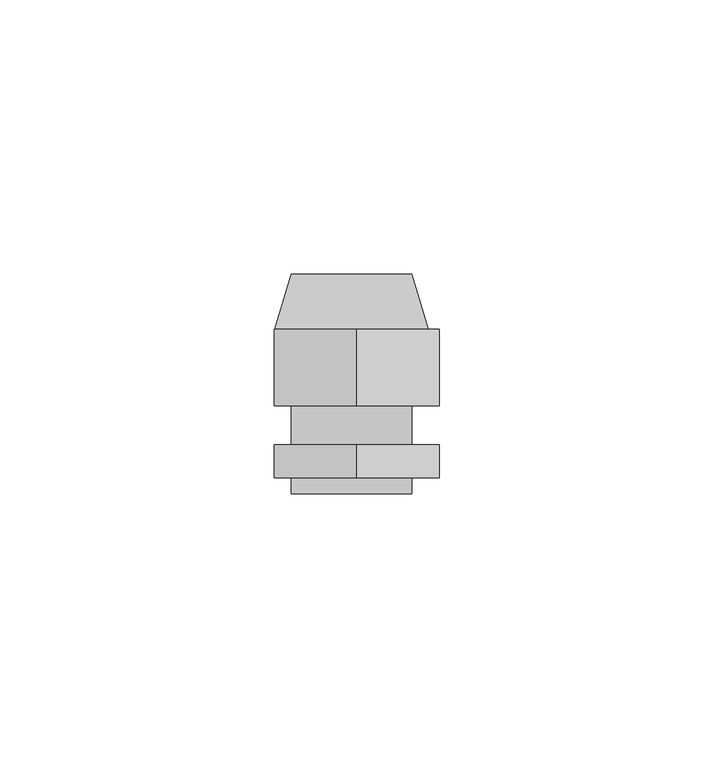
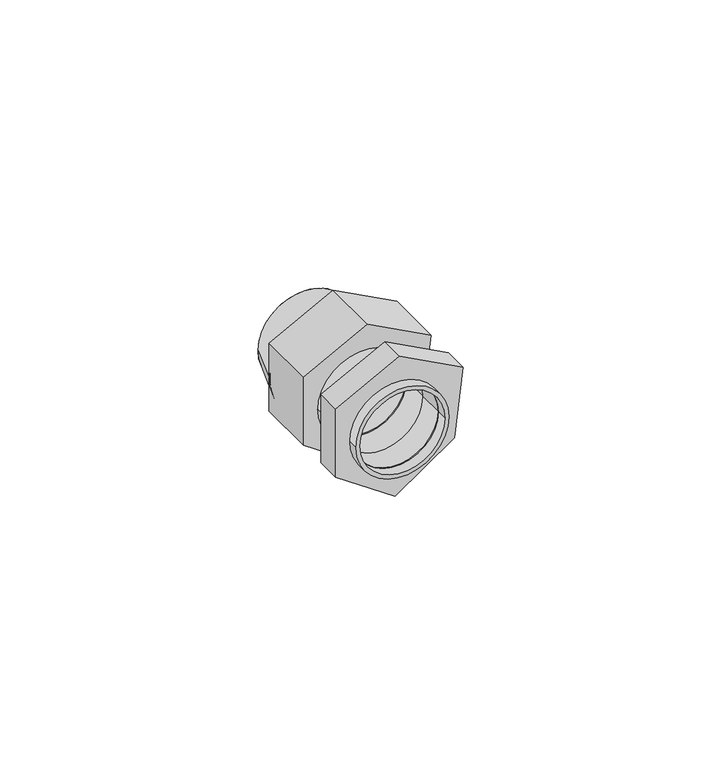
"""IFC4 building model written with IfcOpenShell, lengths in millimetres: cable carrier fitting geometry, Сальник_PGL_D_11-48_IP54 : Сальник PG 16 диаметр проводника 10-14мм IP54."""

import ifcopenshell
import ifcopenshell.guid

model = None  # the IFC model being written
_history = None  # IfcOwnerHistory: only IFC2X3 demands one
_inside = {}  # id of a spatial element -> (the spatial element, [elements in it])
_under = {}  # id of a project, library or spatial element -> (it, [spatial elements below it])
_declared = {}  # id of a project -> (the project, [libraries it declares])
_typed = {}  # id of a type object -> (the type object, [elements of that type])
_made_of = {}  # id of a material, layer set ... -> (it, [elements and type objects made of it])


def new_model(schema):
    """Start an empty IFC model of exactly this schema.

    Asked for "IFC4X3", IfcOpenShell would pick the latest addendum, in which some entities
    have other attributes; the version numbers below select the first issue.
    IFC2X3 requires an IfcOwnerHistory on every rooted entity: one is made here for all.
    """
    global model, _history
    if schema == "IFC4X3":
        model = ifcopenshell.file(schema_version=(4, 3, 0, 0))
    else:
        model = ifcopenshell.file(schema=schema)
    _inside.clear()
    _under.clear()
    _declared.clear()
    _typed.clear()
    _made_of.clear()
    _history = None
    if model.schema == "IFC2X3":
        org = make("IfcOrganization", Name="unknown")
        user = make(
            "IfcPersonAndOrganization",
            ThePerson=make("IfcPerson", FamilyName="unknown"),
            TheOrganization=org,
        )
        app = make(
            "IfcApplication",
            ApplicationDeveloper=org,
            Version="unknown",
            ApplicationFullName="unknown",
            ApplicationIdentifier="unknown",
        )
        _history = make(
            "IfcOwnerHistory",
            OwningUser=user,
            OwningApplication=app,
            ChangeAction="ADDED",
            CreationDate=0,
        )
    return model


def make(cls, **values):
    """One entity of the class cls with the attributes given. An attribute that is None is left unset."""
    return model.create_entity(
        cls, **{name: value for name, value in values.items() if value is not None}
    )


def rooted(cls, **values):
    """An entity with a GlobalId (a new one), such as an element, a storey or a relation."""
    return make(cls, GlobalId=ifcopenshell.guid.new(), OwnerHistory=_history, **values)


def si_unit(unit_type, name, prefix=None):
    """IfcSIUnit, for example si_unit("LENGTHUNIT", "METRE", prefix="MILLI")."""
    return make("IfcSIUnit", UnitType=unit_type, Prefix=prefix, Name=name)


def assignment(units):
    """IfcUnitAssignment: the units of a project."""
    return None if units is None else make("IfcUnitAssignment", Units=units)


def point(xyz):
    """IfcCartesianPoint."""
    return None if xyz is None else make("IfcCartesianPoint", Coordinates=xyz)


def direction(xyz):
    """IfcDirection."""
    return None if xyz is None else make("IfcDirection", DirectionRatios=xyz)


def frame(location, z_axis=None, x_axis=None):
    """IfcAxis2Placement3D, a coordinate frame: its origin and axes. An axis left out is left unset."""
    return make(
        "IfcAxis2Placement3D",
        Location=point(location),
        Axis=direction(z_axis),
        RefDirection=direction(x_axis),
    )


def frame_2d(location, x_axis=None):
    """IfcAxis2Placement2D, a coordinate frame in the plane: its origin and x axis."""
    return make(
        "IfcAxis2Placement2D", Location=point(location), RefDirection=direction(x_axis)
    )


def origin():
    """The frame at (0, 0, 0) with its axes left unset."""
    return frame((0.0, 0.0, 0.0))


def place(relative_to, where):
    """IfcLocalPlacement: puts the frame where relative to a parent placement (None: the world)."""
    return make(
        "IfcLocalPlacement", PlacementRelTo=relative_to, RelativePlacement=where
    )


def context(
    kind, dimensions, precision=None, world=None, true_north=None, identifier=None
):
    """IfcGeometricRepresentationContext, for example the 3D "Model" context."""
    return make(
        "IfcGeometricRepresentationContext",
        ContextIdentifier=identifier,
        ContextType=kind,
        CoordinateSpaceDimension=dimensions,
        Precision=precision,
        WorldCoordinateSystem=world,
        TrueNorth=true_north,
    )


def project(units=None, contexts=None):
    """IfcProject with its units and contexts."""
    return rooted(
        "IfcProject",
        Name="project",
        RepresentationContexts=contexts,
        UnitsInContext=assignment(units),
    )


def spatial(cls, under=None, at=None, **own):
    """A site, building, storey or space (cls), placed at a placement, below another one or the project."""
    s = rooted(cls, ObjectPlacement=at, **own)
    if under is not None:
        _under.setdefault(under.id(), (under, []))[1].append(s)
    return s


def polyline(points):
    """IfcPolyline through the points."""
    return make("IfcPolyline", Points=[point(p) for p in points])


def circle_curve(where, radius):
    """IfcCircle in the frame where."""
    return make("IfcCircle", Position=where, Radius=radius)


def trimmed(basis, trim1, trim2, sense, master):
    """IfcTrimmedCurve: the piece of a basis curve between two trims."""
    return make(
        "IfcTrimmedCurve",
        BasisCurve=basis,
        Trim1=trim1,
        Trim2=trim2,
        SenseAgreement=sense,
        MasterRepresentation=master,
    )


def segment(curve, same_sense, transition):
    """IfcCompositeCurveSegment."""
    return make(
        "IfcCompositeCurveSegment",
        Transition=transition,
        SameSense=same_sense,
        ParentCurve=curve,
    )


def composite_curve(segments, self_intersect=None):
    """IfcCompositeCurve: segments joined end to end."""
    return make("IfcCompositeCurve", Segments=segments, SelfIntersect=self_intersect)


def outline(outer, holes=None, kind="AREA"):
    """IfcArbitraryClosedProfileDef: a profile drawn as a closed curve; with holes, ...WithVoids."""
    if holes is None:
        return make("IfcArbitraryClosedProfileDef", ProfileType=kind, OuterCurve=outer)
    return make(
        "IfcArbitraryProfileDefWithVoids",
        ProfileType=kind,
        OuterCurve=outer,
        InnerCurves=holes,
    )


def extrude(swept, where, along, depth):
    """IfcExtrudedAreaSolid: the profile swept, set in the frame where, extruded along a direction by depth."""
    return make(
        "IfcExtrudedAreaSolid",
        SweptArea=swept,
        Position=where,
        ExtrudedDirection=direction(along),
        Depth=depth,
    )


def shape(context_of_items, identifier, shape_type, items):
    """IfcShapeRepresentation: the items that make up one representation, for example the "Body"."""
    return make(
        "IfcShapeRepresentation",
        ContextOfItems=context_of_items,
        RepresentationIdentifier=identifier,
        RepresentationType=shape_type,
        Items=items,
    )


def source(mapping_origin, context_of_items, identifier, shape_type, items):
    """IfcRepresentationMap: a shape defined once, which mapped items show again and again."""
    return make(
        "IfcRepresentationMap",
        MappingOrigin=mapping_origin,
        MappedRepresentation=shape(context_of_items, identifier, shape_type, items),
    )


def transform(
    local_origin,
    x_axis=None,
    y_axis=None,
    z_axis=None,
    scale=None,
    scale2=None,
    scale3=None,
    uniform=True,
):
    """IfcCartesianTransformationOperator3D, or its non-uniform kind. x_axis, y_axis, z_axis: its Axis1, 2, 3."""
    if uniform:
        return make(
            "IfcCartesianTransformationOperator3D",
            Axis1=direction(x_axis),
            Axis2=direction(y_axis),
            LocalOrigin=point(local_origin),
            Scale=scale,
            Axis3=direction(z_axis),
        )
    return make(
        "IfcCartesianTransformationOperator3DnonUniform",
        Axis1=direction(x_axis),
        Axis2=direction(y_axis),
        LocalOrigin=point(local_origin),
        Scale=scale,
        Axis3=direction(z_axis),
        Scale2=scale2,
        Scale3=scale3,
    )


def mapped(mapping_source, mapping_target):
    """IfcMappedItem: shows the shape of a source again, moved by a transform."""
    return make(
        "IfcMappedItem", MappingSource=mapping_source, MappingTarget=mapping_target
    )


def made_of(thing, what):
    """Note that an element or type object is made of a material, layer set ...; save() writes the relation."""
    if what is not None:
        _made_of.setdefault(what.id(), (what, []))[1].append(thing)
    return thing


def element(
    cls,
    number,
    at=None,
    inside=None,
    cuts=None,
    type_object=None,
    material=None,
    context=None,
    identifier="Body",
    shape_type=None,
    held_by="IfcProductDefinitionShape",
    body=None,
    shapes=None,
    **own,
):
    """One element of the class cls, such as IfcWall. Its Tag is "e" and its number.

    at: its placement. inside: the storey or other place that contains it. cuts: it is an
    opening in that element (IfcRelVoidsElement). A single representation is given by context,
    identifier, shape_type and body (its items); several are given by shapes. held_by: the class
    of the entity that holds the representations. save() writes the other relations.
    """
    e = rooted(cls, Tag="e%d" % number, ObjectPlacement=at, **own)
    if body is not None:
        shapes = [shape(context, identifier, shape_type, body)]
    if shapes is not None:
        e.Representation = make(held_by, Representations=shapes)
    if inside is not None:
        _inside.setdefault(inside.id(), (inside, []))[1].append(e)
    if cuts is not None:
        rooted(
            "IfcRelVoidsElement", RelatingBuildingElement=cuts, RelatedOpeningElement=e
        )
    if type_object is not None:
        _typed.setdefault(type_object.id(), (type_object, []))[1].append(e)
    return made_of(e, material)


def aggregate(whole, parts):
    """IfcRelAggregates: a whole, such as a stair, and the parts it consists of."""
    return rooted("IfcRelAggregates", RelatingObject=whole, RelatedObjects=parts)


def save(model, path):
    """Write the relations noted so far, then the file.

    IfcRelAggregates (storeys below a building ...), IfcRelContainedInSpatialStructure (elements
    in a storey), IfcRelDefinesByType, IfcRelAssociatesMaterial and IfcRelDeclares: one each for
    every whole, place, type object, material and project.
    """
    for whole, parts in _under.values():
        aggregate(whole, parts)
    for where, things in _inside.values():
        rooted(
            "IfcRelContainedInSpatialStructure",
            RelatedElements=things,
            RelatingStructure=where,
        )
    for kind, things in _typed.values():
        rooted("IfcRelDefinesByType", RelatedObjects=things, RelatingType=kind)
    for what, things in _made_of.values():
        rooted("IfcRelAssociatesMaterial", RelatedObjects=things, RelatingMaterial=what)
    for by, libraries in _declared.values():
        rooted("IfcRelDeclares", RelatingContext=by, RelatedDefinitions=libraries)
    model.write(path)


def plane_surface(at):
    """IfcPlane: the flat surface through the origin of the frame at, square to its z axis."""
    return make("IfcPlane", Position=at)


def revolved_surface(curve, axis_point, axis_direction):
    """IfcSurfaceOfRevolution: the curve turned about the line through axis_point along axis_direction."""
    return make(
        "IfcSurfaceOfRevolution",
        SweptCurve=make("IfcArbitraryOpenProfileDef", ProfileType="CURVE", Curve=curve),
        AxisPosition=make("IfcAxis1Placement", Location=point(axis_point), Axis=direction(axis_direction)),
    )


def advanced_brep(points, edges, surfaces, faces):
    """IfcAdvancedBrep: a solid bounded by faces that lie on surfaces and meet in shared edges.

    An edge is (start, end): straight between two places in points (the first is 0);
    or (start, end, curve); or (start, end, curve, False) where it runs against its curve.
    A face is (place in surfaces, loops), or (place, loops, False) where it looks against
    its surface's normal. A loop lists edges by number (the first is 1), with a minus sign
    where the edge is run from its end to its start. The first loop is the outer one.
    """
    corners = [point(p) for p in points]
    vertices = [make("IfcVertexPoint", VertexGeometry=c) for c in corners]
    made = []
    for start, end, *more in edges:
        made.append(
            make(
                "IfcEdgeCurve",
                EdgeStart=vertices[start],
                EdgeEnd=vertices[end],
                EdgeGeometry=more[0] if more else make("IfcPolyline", Points=[corners[start], corners[end]]),
                SameSense=more[1] if len(more) > 1 else True,
            )
        )
    hull = []
    for where, loops, *sense in faces:
        bounds = []
        for j, loop in enumerate(loops):
            ring = [make("IfcOrientedEdge", EdgeElement=made[abs(k) - 1], Orientation=k > 0) for k in loop]
            bounds.append(
                make(
                    "IfcFaceOuterBound" if j == 0 else "IfcFaceBound",
                    Bound=make("IfcEdgeLoop", EdgeList=ring),
                    Orientation=True,
                )
            )
        hull.append(make("IfcAdvancedFace", Bounds=bounds, FaceSurface=surfaces[where], SameSense=sense[0] if sense else True))
    return make("IfcAdvancedBrep", Outer=make("IfcClosedShell", CfsFaces=hull))


def cable_carrier_fitting_a519feb8(model_context):
    return source(origin(), model_context, "Body", "SolidModel", [
        advanced_brep(
        [(-9.9094864, 0.0, 0.0057257), (-9.9094864, -10.0, 0.0057257), (10.0905136, -10.0, 0.0057257), (10.0905136, 0.0, 0.0057257), (-13.9010286, -10.0, 0.0), (14.0989714, -10.0, 0.0), (-10.9010286, 0.0, 0.0), (11.0989714, 0.0, 0.0)],
        [
            (0, 1),
            (1, 2, circle_curve(frame((0.0905136, -10.0, 0.0057257), z_axis=(0.0, -1.0, 0.0), x_axis=(1.0, 0.0, 0.0)), 10.0)),
            (2, 3),
            (3, 0, circle_curve(frame((0.0905136, 0.0, 0.0057257), z_axis=(0.0, 1.0, 0.0), x_axis=(1.0, 0.0, 0.0)), 10.0)),
            (0, 3, circle_curve(frame((0.0905136, 0.0, 0.0057257), z_axis=(0.0, 1.0, 0.0), x_axis=(1.0, 0.0, 0.0)), 10.0)),
            (2, 1, circle_curve(frame((0.0905136, -10.0, 0.0057257), z_axis=(0.0, -1.0, 0.0), x_axis=(1.0, 0.0, 0.0)), 10.0)),
            (4, 5, circle_curve(frame((0.0989714, -10.0, 0.0), z_axis=(0.0, -1.0, 0.0), x_axis=(-1.0, 0.0, 0.0)), 14.0)),
            (5, 4, circle_curve(frame((0.0989714, -10.0, 0.0), z_axis=(0.0, -1.0, 0.0), x_axis=(1.0, 0.0, 0.0)), 14.0)),
            (6, 7, circle_curve(frame((0.0989714, 0.0, 0.0), z_axis=(0.0, 1.0, 0.0), x_axis=(1.0, 0.0, 0.0)), 11.0)),
            (7, 6, circle_curve(frame((0.0989714, 0.0, 0.0), z_axis=(0.0, 1.0, 0.0), x_axis=(-1.0, 0.0, 0.0)), 11.0)),
            (4, 6),
            (7, 5),
        ],
        [
            revolved_surface(polyline([(10.0905136, -10.0, 0.0057257), (10.0905136, 0.0, 0.0057257)]), (0.0905136, 9.180646, 0.0057257), (0.0, -1.0, 0.0)),
            plane_surface(frame((0.0989714, -10.0, 0.0), z_axis=(0.0, -1.0, 0.0), x_axis=(0.0, 0.0, -1.0))),
            plane_surface(frame((0.0989714, 0.0, 0.0), z_axis=(0.0, 1.0, 0.0), x_axis=(0.0, 0.0, -1.0))),
            revolved_surface(polyline([(11.098971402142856, 0.0, 0.0), (14.0989714, -10.0, 0.0)]), (0.0989714, 36.6666667, 0.0), (0.0, -1.0, 0.0)),
            revolved_surface(polyline([(-10.901028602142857, 0.0, 0.0), (-13.9010286, -10.0, 0.0)]), (0.0989714, 36.6666667, 0.0), (0.0, -1.0, 0.0)),
        ],
        [
            (0, [[1, 2, 3, 4]]),
            (0, [[-1, 5, -3, 6]]),
            (1, [[7, 8], [-2, -6]]),
            (2, [[9, 10], [-4, -5]]),
            (3, [[-7, 11, -10, 12]]),
            (4, [[-8, -12, -9, -11]]),
        ],
    ),
        extrude(outline(polyline([(-8.0356639, 14.0), (8.8373796, 16.0737418), (16.8310132, 1.0703481), (8.9643361, -14.0), (-8.0356639, -14.0), (-17.6793146, 0.0), (-8.0356639, 14.0)]), holes=[composite_curve([segment(trimmed(circle_curve(frame_2d((0.0057257, 0.0905136)), 10.0), [point((0.0057257, 10.0905136))], [point((0.0057257, -9.9094864))], True, "CARTESIAN"), True, "CONTINUOUS"), segment(trimmed(circle_curve(frame_2d((0.0057257, 0.0905136)), 10.0), [point((0.0057257, -9.9094864))], [point((0.0057257, 10.0905136))], True, "CARTESIAN"), True, "CONTINUOUS")], self_intersect=False)]), frame((0.0, -24.0, 0.0), z_axis=(0.0, 1.0, 0.0), x_axis=(0.0, 0.0, 1.0)), (0.0, 0.0, 1.0), 14.0),
        extrude(outline(polyline([(-8.0356639, 14.0), (8.8373796, 16.0737418), (16.8310132, 1.0703481), (8.9643361, -14.0), (-8.0356639, -14.0), (-17.6793146, 0.0), (-8.0356639, 14.0)]), holes=[composite_curve([segment(trimmed(circle_curve(frame_2d((0.0057257, 0.0905136)), 10.0), [point((0.0057257, 10.0905136))], [point((0.0057257, -9.9094864))], True, "CARTESIAN"), True, "CONTINUOUS"), segment(trimmed(circle_curve(frame_2d((0.0057257, 0.0905136)), 10.0), [point((0.0057257, -9.9094864))], [point((0.0057257, 10.0905136))], True, "CARTESIAN"), True, "CONTINUOUS")], self_intersect=False)]), frame((0.0, -37.1018563, 0.0), z_axis=(0.0, 1.0, 0.0), x_axis=(0.0, 0.0, 1.0)), (0.0, 0.0, 1.0), 6.0),
        extrude(outline(composite_curve([segment(trimmed(circle_curve(frame_2d((0.0032191, 0.0900025)), 11.0), [point((0.0032191, -10.9099975))], [point((0.0032191, 11.0900025))], False, "CARTESIAN"), True, "CONTINUOUS"), segment(trimmed(circle_curve(frame_2d((0.0032191, 0.0900025)), 11.0), [point((0.0032191, 11.0900025))], [point((0.0032191, -10.9099975))], False, "CARTESIAN"), True, "CONTINUOUS")], self_intersect=False), holes=[composite_curve([segment(trimmed(circle_curve(frame_2d((0.0057257, 0.0905136)), 10.0), [point((0.0057257, 10.0905136))], [point((0.0057257, -9.9094864))], True, "CARTESIAN"), True, "CONTINUOUS"), segment(trimmed(circle_curve(frame_2d((0.0057257, 0.0905136)), 10.0), [point((0.0057257, -9.9094864))], [point((0.0057257, 10.0905136))], True, "CARTESIAN"), True, "CONTINUOUS")], self_intersect=False)]), frame((0.0, -40.0, 0.0), z_axis=(0.0, 1.0, 0.0), x_axis=(0.0, 0.0, 1.0)), (0.0, 0.0, 1.0), 40.0),
    ])


if __name__ == "__main__":
    model = new_model("IFC4")
    model_context = context("Model", 3, world=origin())
    ifc_project = project(units=[si_unit("LENGTHUNIT", "METRE", prefix="MILLI")], contexts=[model_context])
    site = spatial("IfcSite", under=ifc_project)
    building = spatial("IfcBuilding", under=site)
    placement = place(None, origin())
    cable_carrier_fitting_shape = cable_carrier_fitting_a519feb8(model_context)
    element("IfcCableCarrierFitting", 1, ObjectType="Сальник_PGL_D_11-48_IP54 : Сальник PG 16 диаметр проводника 10-14мм IP54", at=placement, inside=building, context=model_context, shape_type="MappedRepresentation", body=[
        mapped(cable_carrier_fitting_shape, transform((0.0, 0.0, 0.0), x_axis=(1.0, 0.0, 0.0), y_axis=(0.0, 1.0, 0.0), z_axis=(0.0, 0.0, 1.0))),
    ])
    save(model, "model.ifc")
